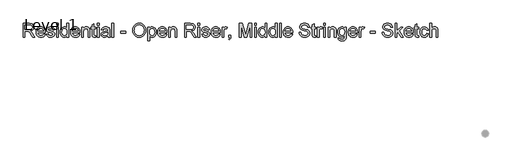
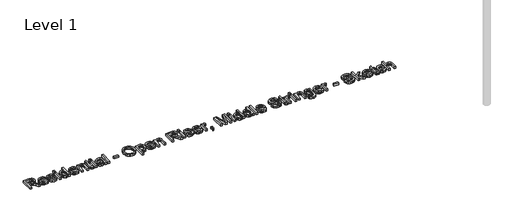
# One storey, part 10 of 26: 1 proxy.
"""IFC4 building model written with IfcOpenShell, lengths in millimetres."""

from ifc_helpers import new_model, si_unit, origin, origin_with_axes, place, context, project, spatial, polyline, outline, extrude, element, save

model = new_model("IFC4")

# Units and contexts
model_context = context("Model", 3, world=origin())
ifc_project = project(units=[si_unit("LENGTHUNIT", "METRE", prefix="MILLI")], contexts=[model_context])

# Site, building, storey
site = spatial("IfcSite", under=ifc_project)
building = spatial("IfcBuilding", under=site)
storey = spatial("IfcBuildingStorey", under=building, Name="Level 1", Elevation=0.0)

# Proxy
placement = place(None, origin())
element("IfcBuildingElementProxy", 1, Name="12\" Arial", ObjectType="12\" Arial", at=placement, inside=storey, context=model_context, shape_type="SweptSolid", body=[
    extrude(outline(polyline([(-4715.4981187, -11859.1232123), (-4715.4981187, -11559.012443), (-4586.1779264, -11559.012443), (-4551.420835, -11561.0365055), (-4526.1337918, -11567.108693), (-4507.6516283, -11578.3188854), (-4493.3091764, -11595.7569623), (-4484.1047293, -11617.380544), (-4481.0365802, -11641.1472507), (-4486.1196331, -11670.7113854), (-4501.3687918, -11695.219943), (-4512.9201439, -11705.2074551), (-4527.2419889, -11713.1892219), (-4564.1971571, -11723.13552), (-4542.875811, -11739.1814815), (-4512.4690802, -11777.7943661), (-4462.4261956, -11859.1232123), (-4506.0213879, -11859.1232123), (-4545.0738879, -11796.9176354), (-4573.2825418, -11755.7403277), (-4593.1018687, -11736.2873469), (-4610.9429264, -11729.1435969), (-4632.7038879, -11727.8247507), (-4677.9842725, -11727.8247507), (-4677.9842725, -11859.1232123), (-4715.4981187, -11859.1232123)]), holes=[polyline([(-4677.9842725, -11690.3109046), (-4594.0177341, -11690.3109046), (-4569.9029985, -11688.9828998), (-4551.1918687, -11684.9988854), (-4537.1058591, -11678.0932604), (-4526.8664841, -11668.0004238), (-4520.6294408, -11655.7919382), (-4518.5504264, -11642.5393661), (-4522.5161235, -11624.2403757), (-4534.4132148, -11609.494943), (-4554.8828062, -11599.7684527), (-4584.5660033, -11596.5262892), (-4677.9842725, -11596.5262892), (-4677.9842725, -11690.3109046)])]), origin_with_axes(), (0.0, 0.0, 1.0), 50.8),
    extrude(outline(polyline([(-4265.7715802, -11793.4739815), (-4228.9904264, -11798.1632123), (-4242.2429985, -11825.8772988), (-4263.3903302, -11846.5941738), (-4291.9561716, -11859.5078757), (-4327.4642725, -11863.812443), (-4350.7409913, -11861.955526), (-4371.4807629, -11856.3847748), (-4389.6835874, -11847.1001894), (-4405.3494648, -11834.10177), (-4417.9471932, -11817.7512832), (-4426.9455706, -11798.4104959), (-4432.344597, -11776.0794082), (-4434.1442725, -11750.75802), (-4432.3262797, -11724.5780079), (-4426.8723014, -11701.5027796), (-4417.7823374, -11681.5323349), (-4405.0563879, -11664.6666738), (-4389.4317244, -11651.2675632), (-4371.6456187, -11641.69677), (-4351.6980706, -11635.954294), (-4329.5890802, -11634.0401354), (-4308.1921752, -11635.9497147), (-4288.8422293, -11641.6784527), (-4271.5392425, -11651.2263493), (-4256.2832148, -11664.5934046), (-4243.8297353, -11681.422431), (-4234.9343927, -11701.3562411), (-4229.5971872, -11724.3948349), (-4227.8181187, -11750.5382123), (-4228.0379264, -11760.6493661), (-4396.6304264, -11760.6493661), (-4390.1369408, -11788.7297988), (-4375.0526379, -11809.3734046), (-4353.2825177, -11822.0672988), (-4326.7315802, -11826.2985969), (-4306.7657148, -11824.338645), (-4289.9504264, -11818.4587892), (-4276.2857148, -11808.2926834), (-4265.7715802, -11793.4739815)]), holes=[polyline([(-4396.6304264, -11723.13552), (-4265.3319648, -11723.13552), (-4270.4058591, -11703.316193), (-4280.3521571, -11689.1385969), (-4302.2230225, -11675.9501354), (-4329.7356187, -11671.5539815), (-4355.0226619, -11675.0617459), (-4375.9318687, -11685.5850392), (-4390.4666523, -11701.9881882), (-4396.6304264, -11723.13552)])]), origin_with_axes(), (0.0, 0.0, 1.0), 50.8),
    extrude(outline(polyline([(-4204.3719648, -11793.4739815), (-4166.8581187, -11788.7847507), (-4160.9416283, -11804.8307123), (-4149.493311, -11816.6270584), (-4132.4398975, -11823.8807123), (-4109.7081187, -11826.2985969), (-4087.2510994, -11824.0822027), (-4071.4615802, -11817.43302), (-4062.1197533, -11807.7981161), (-4059.005811, -11796.6245584), (-4062.1380706, -11787.0629238), (-4071.5348494, -11779.7726354), (-4110.1477341, -11769.0753277), (-4166.638311, -11750.7213854), (-4180.9349696, -11741.4986209), (-4191.2934071, -11729.2901354), (-4197.5854023, -11714.8744142), (-4199.6827341, -11699.029943), (-4197.9975418, -11684.4951594), (-4192.9419648, -11671.0777315), (-4184.973936, -11659.3088613), (-4174.5513879, -11649.7197507), (-4150.7022533, -11638.6194623), (-4118.4271571, -11634.0401354), (-4094.010186, -11635.8810248), (-4072.7804264, -11641.403693), (-4055.7086956, -11650.0677796), (-4043.765811, -11661.3329238), (-4035.8527341, -11676.0325632), (-4030.8704264, -11695.0001354), (-4068.3842725, -11699.6893661), (-4073.1192966, -11687.8838613), (-4082.4885994, -11678.9908084), (-4096.5837677, -11673.4131882), (-4115.4963879, -11671.5539815), (-4137.0375418, -11673.3307604), (-4151.398311, -11678.6610969), (-4159.4762437, -11686.3543661), (-4162.1688879, -11695.219943), (-4157.6994648, -11706.1370584), (-4143.7050418, -11714.4164815), (-4111.393311, -11722.4028277), (-4056.3314841, -11740.0607123), (-4041.7875418, -11748.5049911), (-4030.7605225, -11760.0632123), (-4023.8091043, -11774.7720104), (-4021.4919648, -11792.66802), (-4024.212085, -11811.1685007), (-4032.3724456, -11828.569943), (-4045.6616523, -11843.5077075), (-4063.768311, -11854.6171546), (-4085.6391764, -11861.5136209), (-4110.2210033, -11863.812443), (-4148.0462437, -11859.3796546), (-4175.6504264, -11846.0812892), (-4194.0776379, -11824.0638854), (-4204.3719648, -11793.4739815)])), origin_with_axes(), (0.0, 0.0, 1.0), 50.8),
    extrude(outline(polyline([(-3979.2888879, -11859.1232123), (-3979.2888879, -11638.7293661), (-3941.7750418, -11638.7293661), (-3941.7750418, -11859.1232123), (-3979.2888879, -11859.1232123)])), origin_with_axes(), (0.0, 0.0, 1.0), 50.8),
    extrude(outline(polyline([(-3979.2888879, -11596.5262892), (-3979.2888879, -11559.012443), (-3941.7750418, -11559.012443), (-3941.7750418, -11596.5262892), (-3979.2888879, -11596.5262892)])), origin_with_axes(), (0.0, 0.0, 1.0), 50.8),
    extrude(outline(polyline([(-3749.5165802, -11859.1232123), (-3749.5165802, -11823.7341738), (-3760.7405105, -11841.2684166), (-3774.3365321, -11853.7928757), (-3790.3046451, -11861.3075512), (-3808.6448494, -11863.812443), (-3832.8969648, -11860.1856161), (-3855.0975418, -11849.3051354), (-3873.8910994, -11831.931169), (-3887.9221571, -11808.8238854), (-3896.6595129, -11780.9174671), (-3899.5719648, -11749.1460969), (-3896.8884793, -11717.7685488), (-3888.8380225, -11689.4316738), (-3875.4297533, -11665.747395), (-3856.6728302, -11648.3276354), (-3833.9868446, -11637.6120104), (-3808.7913879, -11634.0401354), (-3790.4374456, -11636.5953998), (-3774.208311, -11644.261193), (-3760.4520129, -11656.0117459), (-3749.5165802, -11670.8212892), (-3749.5165802, -11559.012443), (-3712.0027341, -11559.012443), (-3712.0027341, -11859.1232123), (-3749.5165802, -11859.1232123)]), holes=[polyline([(-3862.0581187, -11748.9995584), (-3857.8268206, -11782.9323709), (-3845.1329264, -11807.0654238), (-3826.6873975, -11821.4903036), (-3805.2011956, -11826.2985969), (-3783.7241523, -11821.7101113), (-3765.7457148, -11807.9446546), (-3753.5738639, -11784.7457844), (-3749.5165802, -11751.8570584), (-3753.6471331, -11715.9001834), (-3766.0387918, -11690.9703277), (-3784.4751619, -11676.408068), (-3806.7398494, -11671.5539815), (-3828.4458591, -11676.2157363), (-3846.2319648, -11690.2010007), (-3858.1015802, -11714.2241498), (-3862.0581187, -11748.9995584)])]), origin_with_axes(), (0.0, 0.0, 1.0), 50.8),
    extrude(outline(polyline([(-3501.4269648, -11793.4739815), (-3464.645811, -11798.1632123), (-3477.8983831, -11825.8772988), (-3499.0457148, -11846.5941738), (-3527.6115562, -11859.5078757), (-3563.1196571, -11863.812443), (-3586.3963759, -11861.955526), (-3607.1361475, -11856.3847748), (-3625.338972, -11847.1001894), (-3641.0048494, -11834.10177), (-3653.6025778, -11817.7512832), (-3662.6009552, -11798.4104959), (-3667.9999817, -11776.0794082), (-3669.7996571, -11750.75802), (-3667.9816643, -11724.5780079), (-3662.527686, -11701.5027796), (-3653.437722, -11681.5323349), (-3640.7117725, -11664.6666738), (-3625.0871091, -11651.2675632), (-3607.3010033, -11641.69677), (-3587.3534552, -11635.954294), (-3565.2444648, -11634.0401354), (-3543.8475598, -11635.9497147), (-3524.4976139, -11641.6784527), (-3507.1946271, -11651.2263493), (-3491.9385994, -11664.5934046), (-3479.4851199, -11681.422431), (-3470.5897773, -11701.3562411), (-3465.2525718, -11724.3948349), (-3463.4735033, -11750.5382123), (-3463.693311, -11760.6493661), (-3632.285811, -11760.6493661), (-3625.7923254, -11788.7297988), (-3610.7080225, -11809.3734046), (-3588.9379023, -11822.0672988), (-3562.3869648, -11826.2985969), (-3542.4210994, -11824.338645), (-3525.605811, -11818.4587892), (-3511.9410994, -11808.2926834), (-3501.4269648, -11793.4739815)]), holes=[polyline([(-3632.285811, -11723.13552), (-3500.9873494, -11723.13552), (-3506.0612437, -11703.316193), (-3516.0075418, -11689.1385969), (-3537.8784071, -11675.9501354), (-3565.3910033, -11671.5539815), (-3590.6780466, -11675.0617459), (-3611.5872533, -11685.5850392), (-3626.1220369, -11701.9881882), (-3632.285811, -11723.13552)])]), origin_with_axes(), (0.0, 0.0, 1.0), 50.8),
    extrude(outline(polyline([(-3425.9596571, -11859.1232123), (-3425.9596571, -11638.7293661), (-3388.445811, -11638.7293661), (-3388.445811, -11669.502443), (-3375.4130466, -11653.9876834), (-3359.7609071, -11642.9057123), (-3341.4893927, -11636.2565296), (-3320.5985033, -11634.0401354), (-3302.1071812, -11635.8260729), (-3285.1728302, -11641.1838854), (-3271.050186, -11649.4449911), (-3260.9939841, -11659.9408084), (-3249.7471571, -11687.5266738), (-3247.7688879, -11723.794943), (-3247.7688879, -11859.1232123), (-3285.2827341, -11859.1232123), (-3285.2827341, -11728.85052), (-3289.6056187, -11695.6595584), (-3295.5862196, -11685.7773709), (-3304.8822533, -11678.1115777), (-3316.7976619, -11673.1933805), (-3330.6363879, -11671.5539815), (-3352.6079985, -11675.2357604), (-3371.3374456, -11686.2810969), (-3378.8223555, -11695.2977916), (-3384.1687196, -11707.6207604), (-3388.445811, -11742.18552), (-3388.445811, -11859.1232123), (-3425.9596571, -11859.1232123)])), origin_with_axes(), (0.0, 0.0, 1.0), 50.8),
    extrude(outline(polyline([(-3116.4704264, -11827.8372507), (-3111.7811956, -11860.2222507), (-3139.843311, -11863.812443), (-3157.8492244, -11862.2554719), (-3171.275811, -11857.5845584), (-3180.7641764, -11850.3858565), (-3186.9554264, -11841.24552), (-3190.3624456, -11825.5475873), (-3191.4981187, -11798.6760969), (-3191.4981187, -11676.2432123), (-3219.6335033, -11676.2432123), (-3219.6335033, -11638.7293661), (-3191.4981187, -11638.7293661), (-3191.4981187, -11585.1695584), (-3153.9842725, -11563.11552), (-3153.9842725, -11638.7293661), (-3116.4704264, -11638.7293661), (-3116.4704264, -11676.2432123), (-3153.9842725, -11676.2432123), (-3153.9842725, -11797.5770584), (-3152.0060033, -11816.9201354), (-3145.5949456, -11823.7708084), (-3132.8094648, -11826.2985969), (-3116.4704264, -11827.8372507)])), origin_with_axes(), (0.0, 0.0, 1.0), 50.8),
    extrude(outline(polyline([(-3078.9565802, -11859.1232123), (-3078.9565802, -11638.7293661), (-3041.4427341, -11638.7293661), (-3041.4427341, -11859.1232123), (-3078.9565802, -11859.1232123)])), origin_with_axes(), (0.0, 0.0, 1.0), 50.8),
    extrude(outline(polyline([(-3078.9565802, -11596.5262892), (-3078.9565802, -11559.012443), (-3041.4427341, -11559.012443), (-3041.4427341, -11596.5262892), (-3078.9565802, -11596.5262892)])), origin_with_axes(), (0.0, 0.0, 1.0), 50.8),
    extrude(outline(polyline([(-2844.4950418, -11830.9878277), (-2862.4185273, -11846.3560488), (-2880.8732148, -11856.4122507), (-2900.2804023, -11861.962395), (-2921.0613879, -11863.812443), (-2952.41146, -11859.3613373), (-2975.537061, -11846.00802), (-2989.797085, -11825.7307604), (-2994.5504264, -11800.5078277), (-2992.7553302, -11784.9564334), (-2987.3700418, -11770.8337892), (-2979.0631427, -11758.7443661), (-2968.5032148, -11749.2926354), (-2942.2361956, -11736.9834046), (-2909.7779264, -11731.3416738), (-2871.4214841, -11725.4068661), (-2844.7148494, -11718.4462892), (-2844.4950418, -11710.0935969), (-2847.0777821, -11693.3515777), (-2854.8260033, -11682.3978277), (-2872.1541764, -11674.264943), (-2896.2963879, -11671.5539815), (-2918.6435033, -11673.3582363), (-2934.2498494, -11678.7710007), (-2944.8922052, -11688.7814094), (-2952.3473494, -11704.3785969), (-2989.8611956, -11699.6893661), (-2983.3493927, -11679.1739815), (-2973.632061, -11663.0547507), (-2959.8024937, -11650.7272027), (-2940.9539841, -11641.5868661), (-2917.9016523, -11635.926818), (-2891.4606187, -11634.0401354), (-2866.1003062, -11635.7070104), (-2845.997061, -11640.7076354), (-2830.8394889, -11648.2268902), (-2820.3161956, -11657.4496546), (-2813.3373014, -11668.8521786), (-2808.8129264, -11682.9107123), (-2806.9811956, -11715.7353277), (-2806.9811956, -11762.4078277), (-2805.0761956, -11827.5808084), (-2797.6027341, -11859.1232123), (-2835.1165802, -11859.1232123), (-2844.4950418, -11830.9878277)]), holes=[polyline([(-2844.4950418, -11755.9601354), (-2905.0154264, -11767.4634046), (-2937.2905225, -11773.5447507), (-2951.9077341, -11783.4360969), (-2957.0365802, -11797.8701354), (-2954.2431908, -11809.0253757), (-2945.8630225, -11818.1657123), (-2932.0792485, -11824.2653757), (-2913.0750418, -11826.2985969), (-2892.9260033, -11824.0547267), (-2875.1215802, -11817.3231161), (-2860.6875418, -11807.404294), (-2850.6496571, -11795.5987892), (-2846.1985514, -11783.4360969), (-2844.7148494, -11766.5841738), (-2844.4950418, -11755.9601354)])]), origin_with_axes(), (0.0, 0.0, 1.0), 50.8),
    extrude(outline(polyline([(-2755.3996571, -11859.1232123), (-2755.3996571, -11559.012443), (-2717.885811, -11559.012443), (-2717.885811, -11859.1232123), (-2755.3996571, -11859.1232123)])), origin_with_axes(), (0.0, 0.0, 1.0), 50.8),
    extrude(outline(polyline([(-2563.1411956, -11770.0278277), (-2563.1411956, -11732.5139815), (-2445.9104264, -11732.5139815), (-2445.9104264, -11770.0278277), (-2563.1411956, -11770.0278277)])), origin_with_axes(), (0.0, 0.0, 1.0), 50.8),
    extrude(outline(polyline([(-2295.8550418, -11713.0243661), (-2293.3547293, -11677.8230801), (-2285.8537918, -11646.6607604), (-2273.3522293, -11619.537407), (-2255.8500418, -11596.45302), (-2234.3958951, -11578.0212291), (-2210.0384552, -11564.8556642), (-2182.777722, -11556.9563253), (-2152.6136956, -11554.3232123), (-2113.2498014, -11559.2688854), (-2077.9523494, -11574.1059046), (-2048.6446571, -11597.7901834), (-2027.2500418, -11629.2776354), (-2014.1714841, -11667.0479238), (-2009.8119648, -11709.5807123), (-2014.4004504, -11752.6813373), (-2028.1659071, -11790.9828277), (-2050.3481668, -11822.5252315), (-2080.187061, -11845.3485969), (-2115.1822773, -11859.1964815), (-2152.8335033, -11863.812443), (-2192.8018687, -11858.7110729), (-2228.300811, -11843.4069623), (-2257.5352341, -11819.283068), (-2278.7100418, -11787.7223469), (-2291.5687918, -11751.4082844), (-2295.8550418, -11713.0243661)]), holes=[polyline([(-2258.3411956, -11713.3907123), (-2256.4659612, -11738.2610368), (-2250.8402581, -11760.3379719), (-2241.4640862, -11779.6215176), (-2228.3374456, -11796.1116738), (-2212.3807809, -11809.3184527), (-2194.5145369, -11818.7518661), (-2174.7387136, -11824.4119142), (-2153.053311, -11826.2985969), (-2130.9969829, -11824.3935969), (-2110.9876139, -11818.6785969), (-2093.025204, -11809.1535969), (-2077.1097533, -11795.8185969), (-2064.0792785, -11778.9804118), (-2054.7717966, -11758.9458565), (-2049.1873074, -11735.714931), (-2047.325811, -11709.2876354), (-2050.5130225, -11676.0783565), (-2060.0746571, -11647.3751354), (-2075.7634312, -11623.9015055), (-2097.332061, -11606.3810007), (-2123.3517966, -11595.473044), (-2152.3938879, -11591.8370584), (-2173.3259913, -11593.588651), (-2192.7469168, -11598.8434286), (-2210.6566643, -11607.6013914), (-2227.0552341, -11619.8625392), (-2240.7428422, -11636.2176053), (-2250.5197052, -11657.2573229), (-2256.385823, -11682.9816918), (-2258.3411956, -11713.3907123)])]), origin_with_axes(), (0.0, 0.0, 1.0), 50.8),
    extrude(outline(polyline([(-1962.9196571, -11943.5293661), (-1962.9196571, -11638.7293661), (-1925.405811, -11638.7293661), (-1925.405811, -11675.51052), (-1913.1698494, -11657.3672267), (-1899.4685033, -11644.4077315), (-1883.495811, -11636.6320344), (-1864.445811, -11634.0401354), (-1839.0763398, -11637.6669623), (-1816.8940802, -11648.547443), (-1798.8332148, -11666.0221546), (-1785.8279264, -11689.4316738), (-1777.9698014, -11717.0724911), (-1775.3504264, -11747.2410969), (-1778.3086716, -11779.3238613), (-1787.1834071, -11808.0179238), (-1801.6907148, -11831.8670584), (-1821.5466764, -11849.4150392), (-1844.6722773, -11860.2130921), (-1868.9885033, -11863.812443), (-1886.2342485, -11861.4037171), (-1901.6299456, -11854.1775392), (-1914.8092485, -11843.2695825), (-1925.405811, -11829.81552), (-1925.405811, -11943.5293661), (-1962.9196571, -11943.5293661)]), holes=[polyline([(-1925.405811, -11750.6847507), (-1921.3485273, -11784.3153277), (-1909.1766764, -11807.8347507), (-1891.2165562, -11821.6826354), (-1869.7944648, -11826.2985969), (-1848.0243446, -11821.5177796), (-1829.6062918, -11807.1753277), (-1817.0497773, -11782.7949911), (-1812.8642725, -11747.90052), (-1816.9490321, -11714.4531161), (-1829.203311, -11690.6039815), (-1847.1359552, -11676.3164815), (-1868.255811, -11671.5539815), (-1889.4580946, -11676.6187171), (-1908.0776379, -11691.8129238), (-1921.0737677, -11716.6603517), (-1925.405811, -11750.6847507)])]), origin_with_axes(), (0.0, 0.0, 1.0), 50.8),
    extrude(outline(polyline([(-1578.8423494, -11793.4739815), (-1542.0611956, -11798.1632123), (-1555.3137677, -11825.8772988), (-1576.4610994, -11846.5941738), (-1605.0269408, -11859.5078757), (-1640.5350418, -11863.812443), (-1663.8117605, -11861.955526), (-1684.5515321, -11856.3847748), (-1702.7543567, -11847.1001894), (-1718.4202341, -11834.10177), (-1731.0179624, -11817.7512832), (-1740.0163398, -11798.4104959), (-1745.4153663, -11776.0794082), (-1747.2150418, -11750.75802), (-1745.397049, -11724.5780079), (-1739.9430706, -11701.5027796), (-1730.8531067, -11681.5323349), (-1718.1271571, -11664.6666738), (-1702.5024937, -11651.2675632), (-1684.7163879, -11641.69677), (-1664.7688398, -11635.954294), (-1642.6598494, -11634.0401354), (-1621.2629444, -11635.9497147), (-1601.9129985, -11641.6784527), (-1584.6100117, -11651.2263493), (-1569.3539841, -11664.5934046), (-1556.9005045, -11681.422431), (-1548.0051619, -11701.3562411), (-1542.6679564, -11724.3948349), (-1540.8888879, -11750.5382123), (-1541.1086956, -11760.6493661), (-1709.7011956, -11760.6493661), (-1703.20771, -11788.7297988), (-1688.1234071, -11809.3734046), (-1666.3532869, -11822.0672988), (-1639.8023494, -11826.2985969), (-1619.8364841, -11824.338645), (-1603.0211956, -11818.4587892), (-1589.3564841, -11808.2926834), (-1578.8423494, -11793.4739815)]), holes=[polyline([(-1709.7011956, -11723.13552), (-1578.4027341, -11723.13552), (-1583.4766283, -11703.316193), (-1593.4229264, -11689.1385969), (-1615.2937918, -11675.9501354), (-1642.8063879, -11671.5539815), (-1668.0934312, -11675.0617459), (-1689.0026379, -11685.5850392), (-1703.5374216, -11701.9881882), (-1709.7011956, -11723.13552)])]), origin_with_axes(), (0.0, 0.0, 1.0), 50.8),
    extrude(outline(polyline([(-1503.3750418, -11859.1232123), (-1503.3750418, -11638.7293661), (-1465.8611956, -11638.7293661), (-1465.8611956, -11669.502443), (-1452.8284312, -11653.9876834), (-1437.1762918, -11642.9057123), (-1418.9047773, -11636.2565296), (-1398.0138879, -11634.0401354), (-1379.5225658, -11635.8260729), (-1362.5882148, -11641.1838854), (-1348.4655706, -11649.4449911), (-1338.4093687, -11659.9408084), (-1327.1625418, -11687.5266738), (-1325.1842725, -11723.794943), (-1325.1842725, -11859.1232123), (-1362.6981187, -11859.1232123), (-1362.6981187, -11728.85052), (-1367.0210033, -11695.6595584), (-1373.0016043, -11685.7773709), (-1382.2976379, -11678.1115777), (-1394.2130466, -11673.1933805), (-1408.0517725, -11671.5539815), (-1430.0233831, -11675.2357604), (-1448.7528302, -11686.2810969), (-1456.2377401, -11695.2977916), (-1461.5841043, -11707.6207604), (-1465.8611956, -11742.18552), (-1465.8611956, -11859.1232123), (-1503.3750418, -11859.1232123)])), origin_with_axes(), (0.0, 0.0, 1.0), 50.8),
    extrude(outline(polyline([(-1151.6827341, -11859.1232123), (-1151.6827341, -11559.012443), (-1022.3625418, -11559.012443), (-987.6054504, -11561.0365055), (-962.3184071, -11567.108693), (-943.8362437, -11578.3188854), (-929.4937918, -11595.7569623), (-920.2893446, -11617.380544), (-917.2211956, -11641.1472507), (-922.3042485, -11670.7113854), (-937.5534071, -11695.219943), (-949.1047593, -11705.2074551), (-963.4266043, -11713.1892219), (-1000.3817725, -11723.13552), (-979.0604264, -11739.1814815), (-948.6536956, -11777.7943661), (-898.610811, -11859.1232123), (-942.2060033, -11859.1232123), (-981.2585033, -11796.9176354), (-1009.4671571, -11755.7403277), (-1029.2864841, -11736.2873469), (-1047.1275418, -11729.1435969), (-1068.8885033, -11727.8247507), (-1114.1688879, -11727.8247507), (-1114.1688879, -11859.1232123), (-1151.6827341, -11859.1232123)]), holes=[polyline([(-1114.1688879, -11690.3109046), (-1030.2023494, -11690.3109046), (-1006.0876139, -11688.9828998), (-987.3764841, -11684.9988854), (-973.2904744, -11678.0932604), (-963.0510994, -11668.0004238), (-956.8140562, -11655.7919382), (-954.7350418, -11642.5393661), (-958.7007389, -11624.2403757), (-970.5978302, -11609.494943), (-991.0674216, -11599.7684527), (-1020.7506187, -11596.5262892), (-1114.1688879, -11596.5262892), (-1114.1688879, -11690.3109046)])]), origin_with_axes(), (0.0, 0.0, 1.0), 50.8),
    extrude(outline(polyline([(-856.2611956, -11859.1232123), (-856.2611956, -11638.7293661), (-818.7473494, -11638.7293661), (-818.7473494, -11859.1232123), (-856.2611956, -11859.1232123)])), origin_with_axes(), (0.0, 0.0, 1.0), 50.8),
    extrude(outline(polyline([(-856.2611956, -11596.5262892), (-856.2611956, -11559.012443), (-818.7473494, -11559.012443), (-818.7473494, -11596.5262892), (-856.2611956, -11596.5262892)])), origin_with_axes(), (0.0, 0.0, 1.0), 50.8),
    extrude(outline(polyline([(-776.5442725, -11793.4739815), (-739.0304264, -11788.7847507), (-733.113936, -11804.8307123), (-721.6656187, -11816.6270584), (-704.6122052, -11823.8807123), (-681.8804264, -11826.2985969), (-659.4234071, -11824.0822027), (-643.6338879, -11817.43302), (-634.292061, -11807.7981161), (-631.1781187, -11796.6245584), (-634.3103783, -11787.0629238), (-643.7071571, -11779.7726354), (-682.3200418, -11769.0753277), (-738.8106187, -11750.7213854), (-753.1072773, -11741.4986209), (-763.4657148, -11729.2901354), (-769.75771, -11714.8744142), (-771.8550418, -11699.029943), (-770.1698494, -11684.4951594), (-765.1142725, -11671.0777315), (-757.1462437, -11659.3088613), (-746.7236956, -11649.7197507), (-722.874561, -11638.6194623), (-690.5994648, -11634.0401354), (-666.1824937, -11635.8810248), (-644.9527341, -11641.403693), (-627.8810033, -11650.0677796), (-615.9381187, -11661.3329238), (-608.0250418, -11676.0325632), (-603.0427341, -11695.0001354), (-640.5565802, -11699.6893661), (-645.2916043, -11687.8838613), (-654.6609071, -11678.9908084), (-668.7560754, -11673.4131882), (-687.6686956, -11671.5539815), (-709.2098494, -11673.3307604), (-723.5706187, -11678.6610969), (-731.6485514, -11686.3543661), (-734.3411956, -11695.219943), (-729.8717725, -11706.1370584), (-715.8773494, -11714.4164815), (-683.5656187, -11722.4028277), (-628.5037918, -11740.0607123), (-613.9598494, -11748.5049911), (-602.9328302, -11760.0632123), (-595.9814119, -11774.7720104), (-593.6642725, -11792.66802), (-596.3843927, -11811.1685007), (-604.5447533, -11828.569943), (-617.83396, -11843.5077075), (-635.9406187, -11854.6171546), (-657.8114841, -11861.5136209), (-682.393311, -11863.812443), (-720.2185514, -11859.3796546), (-747.8227341, -11846.0812892), (-766.2499456, -11824.0638854), (-776.5442725, -11793.4739815)])), origin_with_axes(), (0.0, 0.0, 1.0), 50.8),
    extrude(outline(polyline([(-397.1561956, -11793.4739815), (-360.3750418, -11798.1632123), (-373.6276139, -11825.8772988), (-394.7749456, -11846.5941738), (-423.3407869, -11859.5078757), (-458.8488879, -11863.812443), (-482.1256067, -11861.955526), (-502.8653783, -11856.3847748), (-521.0682028, -11847.1001894), (-536.7340802, -11834.10177), (-549.3318086, -11817.7512832), (-558.330186, -11798.4104959), (-563.7292124, -11776.0794082), (-565.5288879, -11750.75802), (-563.7108951, -11724.5780079), (-558.2569168, -11701.5027796), (-549.1669528, -11681.5323349), (-536.4410033, -11664.6666738), (-520.8163398, -11651.2675632), (-503.0302341, -11641.69677), (-483.082686, -11635.954294), (-460.9736956, -11634.0401354), (-439.5767905, -11635.9497147), (-420.2268446, -11641.6784527), (-402.9238579, -11651.2263493), (-387.6678302, -11664.5934046), (-375.2143506, -11681.422431), (-366.3190081, -11701.3562411), (-360.9818026, -11724.3948349), (-359.2027341, -11750.5382123), (-359.4225418, -11760.6493661), (-528.0150418, -11760.6493661), (-521.5215562, -11788.7297988), (-506.4372533, -11809.3734046), (-484.6671331, -11822.0672988), (-458.1161956, -11826.2985969), (-438.1503302, -11824.338645), (-421.3350418, -11818.4587892), (-407.6703302, -11808.2926834), (-397.1561956, -11793.4739815)]), holes=[polyline([(-528.0150418, -11723.13552), (-396.7165802, -11723.13552), (-401.7904744, -11703.316193), (-411.7367725, -11689.1385969), (-433.6076379, -11675.9501354), (-461.1202341, -11671.5539815), (-486.4072773, -11675.0617459), (-507.3164841, -11685.5850392), (-521.8512677, -11701.9881882), (-528.0150418, -11723.13552)])]), origin_with_axes(), (0.0, 0.0, 1.0), 50.8),
    extrude(outline(polyline([(-321.6888879, -11859.1232123), (-321.6888879, -11638.7293661), (-288.8642725, -11638.7293661), (-288.8642725, -11671.3341738), (-276.7382148, -11652.4307123), (-265.5646571, -11641.2937892), (-254.3544648, -11635.8535488), (-242.1185033, -11634.0401354), (-223.4348494, -11636.93427), (-204.4581187, -11645.6166738), (-216.9871571, -11679.2472507), (-230.1756187, -11673.4772988), (-243.3640802, -11671.5539815), (-254.5651139, -11673.4040296), (-264.5755225, -11678.9541738), (-272.6626139, -11687.7831161), (-278.0936956, -11699.4695584), (-282.6547052, -11720.4245584), (-284.1750418, -11743.2845584), (-284.1750418, -11859.1232123), (-321.6888879, -11859.1232123)])), origin_with_axes(), (0.0, 0.0, 1.0), 50.8),
    extrude(outline(polyline([(-171.6335033, -11859.1232123), (-171.6335033, -11821.6093661), (-134.1196571, -11821.6093661), (-134.1196571, -11859.1232123), (-135.8048494, -11880.5819382), (-140.8604264, -11897.4796546), (-149.5794648, -11910.4391498), (-162.2550418, -11920.0832123), (-171.6335033, -11906.01552), (-163.5006187, -11899.2197988), (-157.8588879, -11889.82302), (-152.9498494, -11859.1232123), (-171.6335033, -11859.1232123)])), origin_with_axes(), (0.0, 0.0, 1.0), 50.8),
    extrude(outline(polyline([(58.1388044, -11859.1232123), (58.1388044, -11559.012443), (122.6889967, -11559.012443), (184.0886121, -11770.5407123), (196.4711121, -11814.7220584), (209.8793813, -11766.8772507), (270.2532275, -11559.012443), (334.8034198, -11559.012443), (334.8034198, -11859.1232123), (297.2895736, -11859.1232123), (297.2895736, -11596.5262892), (221.8955352, -11859.1232123), (171.046689, -11859.1232123), (95.6526506, -11596.5262892), (95.6526506, -11859.1232123), (58.1388044, -11859.1232123)])), origin_with_axes(), (0.0, 0.0, 1.0), 50.8),
    extrude(outline(polyline([(395.7634198, -11859.1232123), (395.7634198, -11638.7293661), (433.2772659, -11638.7293661), (433.2772659, -11859.1232123), (395.7634198, -11859.1232123)])), origin_with_axes(), (0.0, 0.0, 1.0), 50.8),
    extrude(outline(polyline([(395.7634198, -11596.5262892), (395.7634198, -11559.012443), (433.2772659, -11559.012443), (433.2772659, -11596.5262892), (395.7634198, -11596.5262892)])), origin_with_axes(), (0.0, 0.0, 1.0), 50.8),
    extrude(outline(polyline([(625.5357275, -11859.1232123), (625.5357275, -11823.7341738), (614.3117972, -11841.2684166), (600.7157756, -11853.7928757), (584.7476626, -11861.3075512), (566.4074582, -11863.812443), (542.1553429, -11860.1856161), (519.9547659, -11849.3051354), (501.1612082, -11831.931169), (487.1301506, -11808.8238854), (478.3927948, -11780.9174671), (475.4803429, -11749.1460969), (478.1638284, -11717.7685488), (486.2142852, -11689.4316738), (499.6225544, -11665.747395), (518.3794775, -11648.3276354), (541.0654631, -11637.6120104), (566.2609198, -11634.0401354), (584.6148621, -11636.5953998), (600.8439967, -11644.261193), (614.6002948, -11656.0117459), (625.5357275, -11670.8212892), (625.5357275, -11559.012443), (663.0495736, -11559.012443), (663.0495736, -11859.1232123), (625.5357275, -11859.1232123)]), holes=[polyline([(512.994189, -11748.9995584), (517.2254871, -11782.9323709), (529.9193813, -11807.0654238), (548.3649102, -11821.4903036), (569.8511121, -11826.2985969), (591.3281554, -11821.7101113), (609.3065929, -11807.9446546), (621.4784438, -11784.7457844), (625.5357275, -11751.8570584), (621.4051746, -11715.9001834), (609.0135159, -11690.9703277), (590.5771457, -11676.408068), (568.3124582, -11671.5539815), (546.6064486, -11676.2157363), (528.8203429, -11690.2010007), (516.9507275, -11714.2241498), (512.994189, -11748.9995584)])]), origin_with_axes(), (0.0, 0.0, 1.0), 50.8),
    extrude(outline(polyline([(855.3080352, -11859.1232123), (855.3080352, -11823.7341738), (844.0841049, -11841.2684166), (830.4880832, -11853.7928757), (814.5199703, -11861.3075512), (796.1797659, -11863.812443), (771.9276506, -11860.1856161), (749.7270736, -11849.3051354), (730.9335159, -11831.931169), (716.9024582, -11808.8238854), (708.1651025, -11780.9174671), (705.2526506, -11749.1460969), (707.9361361, -11717.7685488), (715.9865929, -11689.4316738), (729.3948621, -11665.747395), (748.1517852, -11648.3276354), (770.8377707, -11637.6120104), (796.0332275, -11634.0401354), (814.3871698, -11636.5953998), (830.6163044, -11644.261193), (844.3726025, -11656.0117459), (855.3080352, -11670.8212892), (855.3080352, -11559.012443), (892.8218813, -11559.012443), (892.8218813, -11859.1232123), (855.3080352, -11859.1232123)]), holes=[polyline([(742.7664967, -11748.9995584), (746.9977948, -11782.9323709), (759.691689, -11807.0654238), (778.1372179, -11821.4903036), (799.6234198, -11826.2985969), (821.1004631, -11821.7101113), (839.0789006, -11807.9446546), (851.2507515, -11784.7457844), (855.3080352, -11751.8570584), (851.1774823, -11715.9001834), (838.7858236, -11690.9703277), (820.3494534, -11676.408068), (798.0847659, -11671.5539815), (776.3787563, -11676.2157363), (758.5926506, -11690.2010007), (746.7230352, -11714.2241498), (742.7664967, -11748.9995584)])]), origin_with_axes(), (0.0, 0.0, 1.0), 50.8),
    extrude(outline(polyline([(949.0926506, -11859.1232123), (949.0926506, -11559.012443), (986.6064967, -11559.012443), (986.6064967, -11859.1232123), (949.0926506, -11859.1232123)])), origin_with_axes(), (0.0, 0.0, 1.0), 50.8),
    extrude(outline(polyline([(1197.1822659, -11793.4739815), (1233.9634198, -11798.1632123), (1220.7108477, -11825.8772988), (1199.5635159, -11846.5941738), (1170.9976746, -11859.5078757), (1135.4895736, -11863.812443), (1112.2128549, -11861.955526), (1091.4730832, -11856.3847748), (1073.2702587, -11847.1001894), (1057.6043813, -11834.10177), (1045.006653, -11817.7512832), (1036.0082756, -11798.4104959), (1030.6092491, -11776.0794082), (1028.8095736, -11750.75802), (1030.6275664, -11724.5780079), (1036.0815448, -11701.5027796), (1045.1715087, -11681.5323349), (1057.8974582, -11664.6666738), (1073.5221217, -11651.2675632), (1091.3082275, -11641.69677), (1111.2557756, -11635.954294), (1133.3647659, -11634.0401354), (1154.761671, -11635.9497147), (1174.1116169, -11641.6784527), (1191.4146037, -11651.2263493), (1206.6706313, -11664.5934046), (1219.1241109, -11681.422431), (1228.0194534, -11701.3562411), (1233.356659, -11724.3948349), (1235.1357275, -11750.5382123), (1234.9159198, -11760.6493661), (1066.3234198, -11760.6493661), (1072.8169054, -11788.7297988), (1087.9012082, -11809.3734046), (1109.6713284, -11822.0672988), (1136.2222659, -11826.2985969), (1156.1881313, -11824.338645), (1173.0034198, -11818.4587892), (1186.6681313, -11808.2926834), (1197.1822659, -11793.4739815)]), holes=[polyline([(1066.3234198, -11723.13552), (1197.6218813, -11723.13552), (1192.5479871, -11703.316193), (1182.601689, -11689.1385969), (1160.7308236, -11675.9501354), (1133.2182275, -11671.5539815), (1107.9311842, -11675.0617459), (1087.0219775, -11685.5850392), (1072.4871938, -11701.9881882), (1066.3234198, -11723.13552)])]), origin_with_axes(), (0.0, 0.0, 1.0), 50.8),
    extrude(outline(polyline([(1380.5018813, -11755.9601354), (1418.0157275, -11755.9601354), (1422.3202948, -11776.7777555), (1430.1051506, -11793.5106161), (1442.2495256, -11806.7906642), (1459.6326506, -11817.2498469), (1480.8807275, -11824.0364094), (1504.6199582, -11826.2985969), (1525.5200063, -11824.5859286), (1543.8189967, -11819.4479238), (1558.6468573, -11811.3150392), (1569.1335159, -11800.6177315), (1575.3705592, -11788.3359767), (1577.4495736, -11775.4497507), (1575.8926025, -11762.8932363), (1571.221689, -11752.0402315), (1561.7333236, -11742.7808325), (1545.7239967, -11735.0051354), (1491.1017852, -11720.6810007), (1455.2456554, -11711.201794), (1432.3032275, -11702.18052), (1413.6287323, -11689.559895), (1400.3944775, -11674.264943), (1392.5088765, -11656.6253757), (1389.8803429, -11636.9709046), (1393.131665, -11614.999294), (1402.8856313, -11594.5113854), (1418.8857996, -11577.1465777), (1440.8757275, -11564.54427), (1467.2709679, -11556.8784767), (1496.4870736, -11554.3232123), (1528.1393813, -11556.9975392), (1555.8351506, -11565.02052), (1578.5852467, -11578.2272988), (1595.4005352, -11596.45302), (1606.0428909, -11618.5620104), (1610.274189, -11643.4185969), (1572.7603429, -11643.4185969), (1565.8730352, -11621.0348469), (1551.5122659, -11604.8789815), (1529.073564, -11595.0975392), (1497.9524582, -11591.8370584), (1466.0986602, -11595.0609046), (1444.2461121, -11604.732443), (1431.6071698, -11618.9649911), (1427.394189, -11635.8718661), (1430.3799102, -11650.2875873), (1439.3370736, -11661.882443), (1460.5118813, -11672.2500392), (1500.5901506, -11682.837443), (1541.9506313, -11692.893645), (1566.9720736, -11701.6676354), (1588.3575304, -11715.277395), (1603.2769775, -11732.0743661), (1612.0418092, -11751.8753757), (1614.9634198, -11774.4972507), (1611.6021938, -11797.6228517), (1601.5185159, -11819.3746546), (1585.1245256, -11838.094943), (1562.8323621, -11852.1260007), (1536.0249823, -11860.8908325), (1506.0853429, -11863.812443), (1469.331665, -11860.6618661), (1439.0806313, -11851.2101354), (1414.9842131, -11835.4206161), (1396.6943813, -11813.2566738), (1384.9529871, -11786.2569623), (1380.5018813, -11755.9601354)])), origin_with_axes(), (0.0, 0.0, 1.0), 50.8),
    extrude(outline(polyline([(1746.2618813, -11827.8372507), (1750.9511121, -11860.2222507), (1722.8889967, -11863.812443), (1704.8830832, -11862.2554719), (1691.4564967, -11857.5845584), (1681.9681313, -11850.3858565), (1675.7768813, -11841.24552), (1672.3698621, -11825.5475873), (1671.234189, -11798.6760969), (1671.234189, -11676.2432123), (1643.0988044, -11676.2432123), (1643.0988044, -11638.7293661), (1671.234189, -11638.7293661), (1671.234189, -11585.1695584), (1708.7480352, -11563.11552), (1708.7480352, -11638.7293661), (1746.2618813, -11638.7293661), (1746.2618813, -11676.2432123), (1708.7480352, -11676.2432123), (1708.7480352, -11797.5770584), (1710.7263044, -11816.9201354), (1717.1373621, -11823.7708084), (1729.9228429, -11826.2985969), (1746.2618813, -11827.8372507)])), origin_with_axes(), (0.0, 0.0, 1.0), 50.8),
    extrude(outline(polyline([(1783.7757275, -11859.1232123), (1783.7757275, -11638.7293661), (1816.6003429, -11638.7293661), (1816.6003429, -11671.3341738), (1828.7264006, -11652.4307123), (1839.8999582, -11641.2937892), (1851.1101506, -11635.8535488), (1863.3461121, -11634.0401354), (1882.0297659, -11636.93427), (1901.0064967, -11645.6166738), (1888.4774582, -11679.2472507), (1875.2889967, -11673.4772988), (1862.1005352, -11671.5539815), (1850.8995015, -11673.4040296), (1840.8890929, -11678.9541738), (1832.8020015, -11687.7831161), (1827.3709198, -11699.4695584), (1822.8099102, -11720.4245584), (1821.2895736, -11743.2845584), (1821.2895736, -11859.1232123), (1783.7757275, -11859.1232123)])), origin_with_axes(), (0.0, 0.0, 1.0), 50.8),
    extrude(outline(polyline([(1924.4526506, -11859.1232123), (1924.4526506, -11638.7293661), (1961.9664967, -11638.7293661), (1961.9664967, -11859.1232123), (1924.4526506, -11859.1232123)])), origin_with_axes(), (0.0, 0.0, 1.0), 50.8),
    extrude(outline(polyline([(1924.4526506, -11596.5262892), (1924.4526506, -11559.012443), (1961.9664967, -11559.012443), (1961.9664967, -11596.5262892), (1924.4526506, -11596.5262892)])), origin_with_axes(), (0.0, 0.0, 1.0), 50.8),
    extrude(outline(polyline([(2018.2372659, -11859.1232123), (2018.2372659, -11638.7293661), (2055.7511121, -11638.7293661), (2055.7511121, -11669.502443), (2068.7838765, -11653.9876834), (2084.4360159, -11642.9057123), (2102.7075304, -11636.2565296), (2123.5984198, -11634.0401354), (2142.0897419, -11635.8260729), (2159.0240929, -11641.1838854), (2173.1467371, -11649.4449911), (2183.202939, -11659.9408084), (2194.4497659, -11687.5266738), (2196.4280352, -11723.794943), (2196.4280352, -11859.1232123), (2158.914189, -11859.1232123), (2158.914189, -11728.85052), (2154.5913044, -11695.6595584), (2148.6107034, -11685.7773709), (2139.3146698, -11678.1115777), (2127.3992611, -11673.1933805), (2113.5605352, -11671.5539815), (2091.5889246, -11675.2357604), (2072.8594775, -11686.2810969), (2065.3745676, -11695.2977916), (2060.0282034, -11707.6207604), (2055.7511121, -11742.18552), (2055.7511121, -11859.1232123), (2018.2372659, -11859.1232123)])), origin_with_axes(), (0.0, 0.0, 1.0), 50.8),
    extrude(outline(polyline([(2238.6311121, -11877.8801354), (2276.1449582, -11882.5693661), (2280.2846698, -11894.292443), (2288.3076506, -11902.3520584), (2304.0788525, -11908.6165777), (2324.7224582, -11910.7047507), (2346.7398621, -11908.341818), (2363.1155352, -11901.25302), (2374.4722659, -11889.8962892), (2381.4328429, -11874.7295584), (2383.9972659, -11830.9878277), (2371.5140207, -11843.2970584), (2357.5837082, -11852.0893661), (2342.2063284, -11857.3647507), (2325.3818813, -11859.1232123), (2304.8138345, -11857.0762531), (2286.7048861, -11850.9353757), (2271.0550364, -11840.7005801), (2257.8642852, -11826.3718661), (2247.3982335, -11809.1810729), (2239.9224823, -11790.3600392), (2235.4370316, -11769.9087652), (2233.9418813, -11747.8272507), (2236.6253669, -11717.5395825), (2244.6758236, -11689.6881161), (2257.8093332, -11666.0862652), (2275.7419775, -11648.547443), (2297.8601265, -11637.6669623), (2323.5501506, -11634.0401354), (2341.093552, -11636.0916738), (2357.0158717, -11642.2462892), (2371.3171097, -11652.5039815), (2383.9972659, -11666.8647507), (2383.9972659, -11638.7293661), (2421.5111121, -11638.7293661), (2421.5111121, -11829.0095584), (2418.946689, -11872.9436209), (2411.2534198, -11901.8758084), (2398.0008477, -11921.0631882), (2378.7585159, -11935.7628277), (2353.9477227, -11945.1046546), (2323.9897659, -11948.2185969), (2289.0861361, -11943.8316017), (2261.6010159, -11930.6706161), (2251.2494474, -11920.7907183), (2243.9706073, -11908.6990055), (2239.7644955, -11894.3954779), (2238.6311121, -11877.8801354)]), holes=[polyline([(2271.4557275, -11745.2628277), (2275.4580592, -11779.6718902), (2287.4650544, -11803.328693), (2305.5167611, -11817.0391979), (2327.6532275, -11821.6093661), (2349.6248381, -11817.0666738), (2367.7681313, -11803.4385969), (2379.9399823, -11780.0840296), (2383.9972659, -11746.3618661), (2379.8209198, -11713.8394863), (2367.2918813, -11690.4208084), (2348.8829871, -11676.2706882), (2327.0670736, -11671.5539815), (2305.6449823, -11676.197419), (2287.6848621, -11690.1277315), (2275.5130111, -11713.1983805), (2271.4557275, -11745.2628277)])]), origin_with_axes(), (0.0, 0.0, 1.0), 50.8),
    extrude(outline(polyline([(2632.0868813, -11793.4739815), (2668.8680352, -11798.1632123), (2655.6154631, -11825.8772988), (2634.4681313, -11846.5941738), (2605.90229, -11859.5078757), (2570.394189, -11863.812443), (2547.1174703, -11861.955526), (2526.3776986, -11856.3847748), (2508.1748741, -11847.1001894), (2492.5089967, -11834.10177), (2479.9112683, -11817.7512832), (2470.9128909, -11798.4104959), (2465.5138645, -11776.0794082), (2463.714189, -11750.75802), (2465.5321818, -11724.5780079), (2470.9861602, -11701.5027796), (2480.0761241, -11681.5323349), (2492.8020736, -11664.6666738), (2508.4267371, -11651.2675632), (2526.2128429, -11641.69677), (2546.1603909, -11635.954294), (2568.2693813, -11634.0401354), (2589.6662864, -11635.9497147), (2609.0162323, -11641.6784527), (2626.3192191, -11651.2263493), (2641.5752467, -11664.5934046), (2654.0287263, -11681.422431), (2662.9240688, -11701.3562411), (2668.2612744, -11724.3948349), (2670.0403429, -11750.5382123), (2669.8205352, -11760.6493661), (2501.2280352, -11760.6493661), (2507.7215207, -11788.7297988), (2522.8058236, -11809.3734046), (2544.5759438, -11822.0672988), (2571.1268813, -11826.2985969), (2591.0927467, -11824.338645), (2607.9080352, -11818.4587892), (2621.5727467, -11808.2926834), (2632.0868813, -11793.4739815)]), holes=[polyline([(2501.2280352, -11723.13552), (2632.5264967, -11723.13552), (2627.4526025, -11703.316193), (2617.5063044, -11689.1385969), (2595.635439, -11675.9501354), (2568.1228429, -11671.5539815), (2542.8357996, -11675.0617459), (2521.9265929, -11685.5850392), (2507.3918092, -11701.9881882), (2501.2280352, -11723.13552)])]), origin_with_axes(), (0.0, 0.0, 1.0), 50.8),
    extrude(outline(polyline([(2707.554189, -11859.1232123), (2707.554189, -11638.7293661), (2740.3788044, -11638.7293661), (2740.3788044, -11671.3341738), (2752.5048621, -11652.4307123), (2763.6784198, -11641.2937892), (2774.8886121, -11635.8535488), (2787.1245736, -11634.0401354), (2805.8082275, -11636.93427), (2824.7849582, -11645.6166738), (2812.2559198, -11679.2472507), (2799.0674582, -11673.4772988), (2785.8789967, -11671.5539815), (2774.6779631, -11673.4040296), (2764.6675544, -11678.9541738), (2756.5804631, -11687.7831161), (2751.1493813, -11699.4695584), (2746.5883717, -11720.4245584), (2745.0680352, -11743.2845584), (2745.0680352, -11859.1232123), (2707.554189, -11859.1232123)])), origin_with_axes(), (0.0, 0.0, 1.0), 50.8),
    extrude(outline(polyline([(2946.7049582, -11770.0278277), (2946.7049582, -11732.5139815), (3063.9357275, -11732.5139815), (3063.9357275, -11770.0278277), (2946.7049582, -11770.0278277)])), origin_with_axes(), (0.0, 0.0, 1.0), 50.8),
    extrude(outline(polyline([(3213.9911121, -11755.9601354), (3251.5049582, -11755.9601354), (3255.8095256, -11776.7777555), (3263.5943813, -11793.5106161), (3275.7387563, -11806.7906642), (3293.1218813, -11817.2498469), (3314.3699582, -11824.0364094), (3338.109189, -11826.2985969), (3359.0092371, -11824.5859286), (3377.3082275, -11819.4479238), (3392.1360881, -11811.3150392), (3402.6227467, -11800.6177315), (3408.85979, -11788.3359767), (3410.9388044, -11775.4497507), (3409.3818332, -11762.8932363), (3404.7109198, -11752.0402315), (3395.2225544, -11742.7808325), (3379.2132275, -11735.0051354), (3324.5910159, -11720.6810007), (3288.7348861, -11711.201794), (3265.7924582, -11702.18052), (3247.1179631, -11689.559895), (3233.8837082, -11674.264943), (3225.9981073, -11656.6253757), (3223.3695736, -11636.9709046), (3226.6208957, -11614.999294), (3236.3748621, -11594.5113854), (3252.3750304, -11577.1465777), (3274.3649582, -11564.54427), (3300.7601986, -11556.8784767), (3329.9763044, -11554.3232123), (3361.6286121, -11556.9975392), (3389.3243813, -11565.02052), (3412.0744775, -11578.2272988), (3428.8897659, -11596.45302), (3439.5321217, -11618.5620104), (3443.7634198, -11643.4185969), (3406.2495736, -11643.4185969), (3399.3622659, -11621.0348469), (3385.0014967, -11604.8789815), (3362.5627948, -11595.0975392), (3331.441689, -11591.8370584), (3299.5878909, -11595.0609046), (3277.7353429, -11604.732443), (3265.0964006, -11618.9649911), (3260.8834198, -11635.8718661), (3263.8691409, -11650.2875873), (3272.8263044, -11661.882443), (3294.0011121, -11672.2500392), (3334.0793813, -11682.837443), (3375.4398621, -11692.893645), (3400.4613044, -11701.6676354), (3421.8467611, -11715.277395), (3436.7662082, -11732.0743661), (3445.53104, -11751.8753757), (3448.4526506, -11774.4972507), (3445.0914246, -11797.6228517), (3435.0077467, -11819.3746546), (3418.6137563, -11838.094943), (3396.3215929, -11852.1260007), (3369.5142131, -11860.8908325), (3339.5745736, -11863.812443), (3302.8208957, -11860.6618661), (3272.5698621, -11851.2101354), (3248.4734438, -11835.4206161), (3230.1836121, -11813.2566738), (3218.4422179, -11786.2569623), (3213.9911121, -11755.9601354)])), origin_with_axes(), (0.0, 0.0, 1.0), 50.8),
    extrude(outline(polyline([(3500.034189, -11859.1232123), (3500.034189, -11559.012443), (3537.5480352, -11559.012443), (3537.5480352, -11720.27802), (3621.6611121, -11638.7293661), (3673.5357275, -11638.7293661), (3588.3968813, -11721.3037892), (3678.2249582, -11859.1232123), (3634.4099582, -11859.1232123), (3561.5070736, -11747.3876354), (3537.5480352, -11770.6139815), (3537.5480352, -11859.1232123), (3500.034189, -11859.1232123)])), origin_with_axes(), (0.0, 0.0, 1.0), 50.8),
    extrude(outline(polyline([(3865.3545736, -11793.4739815), (3902.1357275, -11798.1632123), (3888.8831554, -11825.8772988), (3867.7358236, -11846.5941738), (3839.1699823, -11859.5078757), (3803.6618813, -11863.812443), (3780.3851626, -11861.955526), (3759.6453909, -11856.3847748), (3741.4425664, -11847.1001894), (3725.776689, -11834.10177), (3713.1789607, -11817.7512832), (3704.1805832, -11798.4104959), (3698.7815568, -11776.0794082), (3696.9818813, -11750.75802), (3698.7998741, -11724.5780079), (3704.2538525, -11701.5027796), (3713.3438164, -11681.5323349), (3726.0697659, -11664.6666738), (3741.6944294, -11651.2675632), (3759.4805352, -11641.69677), (3779.4280832, -11635.954294), (3801.5370736, -11634.0401354), (3822.9339787, -11635.9497147), (3842.2839246, -11641.6784527), (3859.5869114, -11651.2263493), (3874.842939, -11664.5934046), (3887.2964186, -11681.422431), (3896.1917611, -11701.3562411), (3901.5289667, -11724.3948349), (3903.3080352, -11750.5382123), (3903.0882275, -11760.6493661), (3734.4957275, -11760.6493661), (3740.9892131, -11788.7297988), (3756.0735159, -11809.3734046), (3777.8436361, -11822.0672988), (3804.3945736, -11826.2985969), (3824.360439, -11824.338645), (3841.1757275, -11818.4587892), (3854.840439, -11808.2926834), (3865.3545736, -11793.4739815)]), holes=[polyline([(3734.4957275, -11723.13552), (3865.794189, -11723.13552), (3860.7202948, -11703.316193), (3850.7739967, -11689.1385969), (3828.9031313, -11675.9501354), (3801.3905352, -11671.5539815), (3776.1034919, -11675.0617459), (3755.1942852, -11685.5850392), (3740.6595015, -11701.9881882), (3734.4957275, -11723.13552)])]), origin_with_axes(), (0.0, 0.0, 1.0), 50.8),
    extrude(outline(polyline([(4020.5388044, -11827.8372507), (4025.2280352, -11860.2222507), (3997.1659198, -11863.812443), (3979.1600063, -11862.2554719), (3965.7334198, -11857.5845584), (3956.2450544, -11850.3858565), (3950.0538044, -11841.24552), (3946.6467852, -11825.5475873), (3945.5111121, -11798.6760969), (3945.5111121, -11676.2432123), (3917.3757275, -11676.2432123), (3917.3757275, -11638.7293661), (3945.5111121, -11638.7293661), (3945.5111121, -11585.1695584), (3983.0249582, -11563.11552), (3983.0249582, -11638.7293661), (4020.5388044, -11638.7293661), (4020.5388044, -11676.2432123), (3983.0249582, -11676.2432123), (3983.0249582, -11797.5770584), (3985.0032275, -11816.9201354), (3991.4142852, -11823.7708084), (4004.1997659, -11826.2985969), (4020.5388044, -11827.8372507)])), origin_with_axes(), (0.0, 0.0, 1.0), 50.8),
    extrude(outline(polyline([(4198.7295736, -11779.4062892), (4236.2434198, -11784.09552), (4225.7842371, -11817.4604959), (4206.1297659, -11842.67427), (4179.1300544, -11858.5278998), (4146.6351506, -11863.812443), (4125.595433, -11861.969264), (4106.7308957, -11856.4397267), (4090.0415388, -11847.2238313), (4075.5273621, -11834.3215777), (4063.7790989, -11817.9756702), (4055.3874823, -11798.4288132), (4050.3525123, -11775.6810067), (4048.674189, -11749.7322507), (4051.5408477, -11716.3489575), (4060.1408236, -11687.41677), (4074.6114967, -11664.053044), (4095.0902467, -11647.3751354), (4119.5896457, -11637.3738854), (4146.1222659, -11634.0401354), (4177.8203669, -11638.6194623), (4203.1623621, -11652.357443), (4221.34229, -11674.5213854), (4231.554189, -11704.3785969), (4194.0403429, -11709.0678277), (4187.2354631, -11692.7013132), (4176.6389006, -11680.9690777), (4162.8368092, -11673.9077555), (4146.4153429, -11671.5539815), (4122.1723861, -11676.1882604), (4102.9300544, -11690.0910969), (4090.37354, -11714.0135007), (4086.1880352, -11748.7064815), (4090.2819534, -11783.8665536), (4102.5637082, -11807.8713854), (4121.4580111, -11821.691794), (4145.3895736, -11826.2985969), (4164.8150784, -11823.4227796), (4180.7419775, -11814.7953277), (4192.3276746, -11800.1964334), (4198.7295736, -11779.4062892)])), origin_with_axes(), (0.0, 0.0, 1.0), 50.8),
    extrude(outline(polyline([(4269.0680352, -11859.1232123), (4269.0680352, -11559.012443), (4306.5818813, -11559.012443), (4306.5818813, -11669.3559046), (4320.361076, -11653.9052555), (4335.8346217, -11642.8690777), (4353.0025183, -11636.2473709), (4371.8647659, -11634.0401354), (4394.5232756, -11636.4488613), (4413.9945736, -11643.6750392), (4429.3261602, -11655.1508325), (4439.5655352, -11670.3084046), (4445.3354871, -11691.1351834), (4447.2588044, -11719.6185969), (4447.2588044, -11859.1232123), (4409.7449582, -11859.1232123), (4409.7449582, -11723.5018661), (4406.7592371, -11700.0190777), (4397.8020736, -11683.9364815), (4383.3680352, -11674.6496065), (4363.951689, -11671.5539815), (4348.0980592, -11673.6421546), (4333.2152467, -11679.9066738), (4320.8876986, -11689.743068), (4312.6998621, -11702.5468661), (4308.1113765, -11719.563645), (4306.5818813, -11742.0389815), (4306.5818813, -11859.1232123), (4269.0680352, -11859.1232123)])), origin_with_axes(), (0.0, 0.0, 1.0), 50.8),
])

save(model, "model.ifc")
